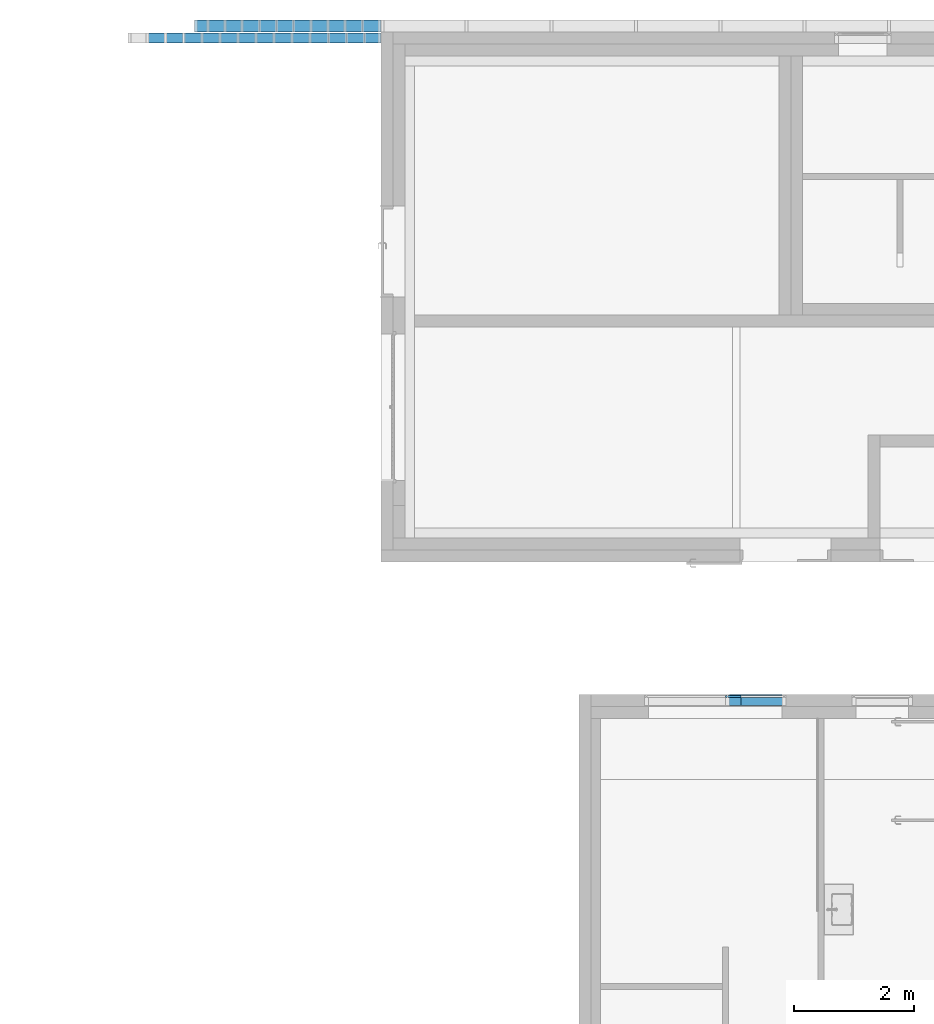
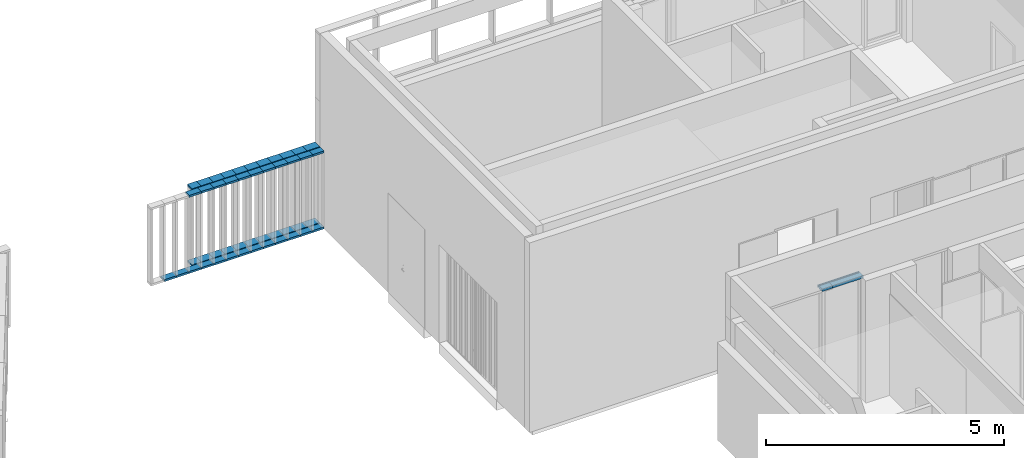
# One storey, part 37 of 240: 48 members, 3 elements without a shape of their own.
"""IFC2X3 building model written with IfcOpenShell, lengths in centimetres."""

from ifc_helpers import new_model, entity, si_unit, converted_unit, derived_unit, direction, frame, origin, origin_2d_with_axis, place, context, subcontext, project, spatial, polyline, rectangle, outline, extrude, source, transform, mapped, material, type_object, type_shapes, element, aggregate, save


model = new_model("IFC2X3")

# Units and contexts
model_context = context("Model", 3, precision=0.001, world=origin(), true_north=direction((6.12303176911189e-17, 1.0)))
body_context = subcontext(model_context, "Body", "Model", "MODEL_VIEW")
ifc_project = project(units=[si_unit("LENGTHUNIT", "METRE", prefix="CENTI"), si_unit("AREAUNIT", "SQUARE_METRE"), si_unit("VOLUMEUNIT", "CUBIC_METRE"), converted_unit("PLANEANGLEUNIT", "DEGREE", entity("IfcRatioMeasure", 0.0174532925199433), si_unit("PLANEANGLEUNIT", "RADIAN"), dimensions=[0, 0, 0, 0, 0, 0, 0]), si_unit("MASSUNIT", "GRAM", prefix="KILO"), derived_unit("MASSDENSITYUNIT", [(si_unit("MASSUNIT", "GRAM", prefix="KILO"), 1), (si_unit("LENGTHUNIT", "METRE"), -3)]), si_unit("TIMEUNIT", "SECOND"), si_unit("FREQUENCYUNIT", "HERTZ"), si_unit("THERMODYNAMICTEMPERATUREUNIT", "DEGREE_CELSIUS"), derived_unit("THERMALTRANSMITTANCEUNIT", [(si_unit("MASSUNIT", "GRAM", prefix="KILO"), 1), (si_unit("THERMODYNAMICTEMPERATUREUNIT", "KELVIN"), -1), (si_unit("TIMEUNIT", "SECOND"), -3)]), derived_unit("VOLUMETRICFLOWRATEUNIT", [(si_unit("LENGTHUNIT", "METRE"), 3), (si_unit("TIMEUNIT", "SECOND"), -1)]), si_unit("ELECTRICCURRENTUNIT", "AMPERE"), si_unit("ELECTRICVOLTAGEUNIT", "VOLT"), si_unit("POWERUNIT", "WATT"), si_unit("FORCEUNIT", "NEWTON", prefix="KILO"), si_unit("ILLUMINANCEUNIT", "LUX"), si_unit("LUMINOUSFLUXUNIT", "LUMEN"), si_unit("LUMINOUSINTENSITYUNIT", "CANDELA"), derived_unit("USERDEFINED", [(si_unit("MASSUNIT", "GRAM", prefix="KILO"), -1), (si_unit("LENGTHUNIT", "METRE"), -2), (si_unit("TIMEUNIT", "SECOND"), 3), (si_unit("LUMINOUSFLUXUNIT", "LUMEN"), 1)]), derived_unit("LINEARVELOCITYUNIT", [(si_unit("LENGTHUNIT", "METRE"), 1), (si_unit("TIMEUNIT", "SECOND"), -1)]), si_unit("PRESSUREUNIT", "PASCAL"), derived_unit("USERDEFINED", [(si_unit("LENGTHUNIT", "METRE"), -2), (si_unit("MASSUNIT", "GRAM", prefix="KILO"), 1), (si_unit("TIMEUNIT", "SECOND"), -2)])], contexts=[model_context])

# Site, building, storey
site_placement = place(None, frame((-2781.94577612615, 7442.24238424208, 0.0)))
site = spatial("IfcSite", under=ifc_project, at=site_placement, Name="Default", CompositionType="ELEMENT")
building_placement = place(site_placement, origin())
building = spatial("IfcBuilding", under=site, at=building_placement, CompositionType="ELEMENT")
storey_placement = place(building_placement, origin())
storey = spatial("IfcBuildingStorey", under=building, at=storey_placement, Name="N00 - COO", CompositionType="ELEMENT", Elevation=0.0)

# Curtain wall, members
curtain_wall_type_1 = type_object("IfcCurtainWallType", Name="Mur-SR", PredefinedType="NOTDEFINED")
curtain_wall_1_placement = place(storey_placement, origin())
curtain_wall_1 = element("IfcCurtainWall", 1, at=curtain_wall_1_placement, inside=storey, type_object=curtain_wall_type_1, Name="Mur-SR", ObjectType="Mur-SR")
ifc_material = material(Name="Aluminium")
member_type_1 = type_object("IfcMemberType", Name="Epine nord (200x50 mm)", PredefinedType="MEMBER")
shared_shape_1 = source(origin(), body_context, "Body", "SweptSolid", [
    extrude(rectangle(XDim=20.0, YDim=5.0, at=origin_2d_with_axis()), frame((-2.5, 0.0, -31.0), z_axis=(0.0, 0.0, 1.0), x_axis=(0.0, -1.0, 0.0)), (0.0, 0.0, 1.0), 31.0000000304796),
])
type_shapes(member_type_1, [shared_shape_1])
member_1_placement = place(storey_placement, frame((-11261.6616968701, 40.0, 200.0), z_axis=(-1.0, 0.0, 0.0), x_axis=(0.0, 0.0, 1.0)))
member_1 = element("IfcMember", 2, at=member_1_placement, type_object=member_type_1, material=ifc_material, Name="Meneau rectangulaire:Epine nord (200x50 mm)", ObjectType="Meneau rectangulaire:Epine nord (200x50 mm)", context=body_context, shape_type="MappedRepresentation", body=[
    mapped(shared_shape_1, transform((0.0, 0.0, 0.0), scale=1.0)),
])
member_type_2 = type_object("IfcMemberType", Name="Epine nord (200x50 mm)", PredefinedType="MEMBER")
shared_shape_2 = source(origin(), body_context, "Body", "SweptSolid", [
    extrude(rectangle(XDim=20.0, YDim=5.0, at=origin_2d_with_axis()), frame((-2.5, 0.0, -28.5000000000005), z_axis=(0.0, 0.0, 1.0), x_axis=(0.0, -1.0, 0.0)), (0.0, 0.0, 1.0), 28.5000000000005),
])
type_shapes(member_type_2, [shared_shape_2])
member_2_placement = place(storey_placement, frame((-11290.1616968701, 40.0, 200.0), z_axis=(-1.0, 0.0, 0.0), x_axis=(0.0, 0.0, 1.0)))
member_2 = element("IfcMember", 3, at=member_2_placement, type_object=member_type_2, material=ifc_material, Name="Meneau rectangulaire:Epine nord (200x50 mm)", ObjectType="Meneau rectangulaire:Epine nord (200x50 mm)", context=body_context, shape_type="MappedRepresentation", body=[
    mapped(shared_shape_2, transform((0.0, 0.0, 0.0), scale=1.0)),
])
member_3_placement = place(storey_placement, frame((-11318.6616968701, 40.0, 200.0), z_axis=(-1.0, 0.0, 0.0), x_axis=(0.0, 0.0, 1.0)))
member_3 = element("IfcMember", 4, at=member_3_placement, type_object=member_type_2, material=ifc_material, Name="Meneau rectangulaire:Epine nord (200x50 mm)", ObjectType="Meneau rectangulaire:Epine nord (200x50 mm)", context=body_context, shape_type="MappedRepresentation", body=[
    mapped(shared_shape_2, transform((0.0, 0.0, 0.0), scale=1.0)),
])
member_4_placement = place(storey_placement, frame((-11347.1616968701, 40.0, 200.0), z_axis=(-1.0, 0.0, 0.0), x_axis=(0.0, 0.0, 1.0)))
member_4 = element("IfcMember", 5, at=member_4_placement, type_object=member_type_2, material=ifc_material, Name="Meneau rectangulaire:Epine nord (200x50 mm)", ObjectType="Meneau rectangulaire:Epine nord (200x50 mm)", context=body_context, shape_type="MappedRepresentation", body=[
    mapped(shared_shape_2, transform((0.0, 0.0, 0.0), scale=1.0)),
])
member_5_placement = place(storey_placement, frame((-11375.6616968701, 40.0, 200.0), z_axis=(-1.0, 0.0, 0.0), x_axis=(0.0, 0.0, 1.0)))
member_5 = element("IfcMember", 6, at=member_5_placement, type_object=member_type_2, material=ifc_material, Name="Meneau rectangulaire:Epine nord (200x50 mm)", ObjectType="Meneau rectangulaire:Epine nord (200x50 mm)", context=body_context, shape_type="MappedRepresentation", body=[
    mapped(shared_shape_2, transform((0.0, 0.0, 0.0), scale=1.0)),
])
member_6_placement = place(storey_placement, frame((-11404.1616968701, 40.0, 200.0), z_axis=(-1.0, 0.0, 0.0), x_axis=(0.0, 0.0, 1.0)))
member_6 = element("IfcMember", 7, at=member_6_placement, type_object=member_type_2, material=ifc_material, Name="Meneau rectangulaire:Epine nord (200x50 mm)", ObjectType="Meneau rectangulaire:Epine nord (200x50 mm)", context=body_context, shape_type="MappedRepresentation", body=[
    mapped(shared_shape_2, transform((0.0, 0.0, 0.0), scale=1.0)),
])
member_7_placement = place(storey_placement, frame((-11432.6616968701, 40.0, 200.0), z_axis=(-1.0, 0.0, 0.0), x_axis=(0.0, 0.0, 1.0)))
member_7 = element("IfcMember", 8, at=member_7_placement, type_object=member_type_2, material=ifc_material, Name="Meneau rectangulaire:Epine nord (200x50 mm)", ObjectType="Meneau rectangulaire:Epine nord (200x50 mm)", context=body_context, shape_type="MappedRepresentation", body=[
    mapped(shared_shape_2, transform((0.0, 0.0, 0.0), scale=1.0)),
])
member_8_placement = place(storey_placement, frame((-11461.1616968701, 40.0, 200.0), z_axis=(-1.0, 0.0, 0.0), x_axis=(0.0, 0.0, 1.0)))
member_8 = element("IfcMember", 9, at=member_8_placement, type_object=member_type_2, material=ifc_material, Name="Meneau rectangulaire:Epine nord (200x50 mm)", ObjectType="Meneau rectangulaire:Epine nord (200x50 mm)", context=body_context, shape_type="MappedRepresentation", body=[
    mapped(shared_shape_2, transform((0.0, 0.0, 0.0), scale=1.0)),
])
member_9_placement = place(storey_placement, frame((-11489.6616968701, 40.0, 200.0), z_axis=(-1.0, 0.0, 0.0), x_axis=(0.0, 0.0, 1.0)))
member_9 = element("IfcMember", 10, at=member_9_placement, type_object=member_type_2, material=ifc_material, Name="Meneau rectangulaire:Epine nord (200x50 mm)", ObjectType="Meneau rectangulaire:Epine nord (200x50 mm)", context=body_context, shape_type="MappedRepresentation", body=[
    mapped(shared_shape_2, transform((0.0, 0.0, 0.0), scale=1.0)),
])
member_10_placement = place(storey_placement, frame((-11518.1616968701, 40.0, 200.0), z_axis=(-1.0, 0.0, 0.0), x_axis=(0.0, 0.0, 1.0)))
member_10 = element("IfcMember", 11, at=member_10_placement, type_object=member_type_2, material=ifc_material, Name="Meneau rectangulaire:Epine nord (200x50 mm)", ObjectType="Meneau rectangulaire:Epine nord (200x50 mm)", context=body_context, shape_type="MappedRepresentation", body=[
    mapped(shared_shape_2, transform((0.0, 0.0, 0.0), scale=1.0)),
])
member_type_3 = type_object("IfcMemberType", Name="Epine nord (200x50 mm)", PredefinedType="MEMBER")
shared_shape_3 = source(origin(), body_context, "Body", "SweptSolid", [
    extrude(rectangle(XDim=20.0, YDim=5.0, at=origin_2d_with_axis()), frame((-2.5, 0.0, -31.0), z_axis=(0.0, 0.0, 1.0), x_axis=(0.0, -1.0, 0.0)), (0.0, 0.0, 1.0), 31.0000000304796),
])
type_shapes(member_type_3, [shared_shape_3])
member_11_placement = place(storey_placement, frame((-11230.6616968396, 40.0, 0.0), z_axis=(1.0, 0.0, 0.0), x_axis=(0.0, 0.0, -1.0)))
member_11 = element("IfcMember", 12, at=member_11_placement, type_object=member_type_3, material=ifc_material, Name="Meneau rectangulaire:Epine nord (200x50 mm)", ObjectType="Meneau rectangulaire:Epine nord (200x50 mm)", context=body_context, shape_type="MappedRepresentation", body=[
    mapped(shared_shape_3, transform((0.0, 0.0, 0.0), scale=1.0)),
])
member_type_4 = type_object("IfcMemberType", Name="Epine nord (200x50 mm)", PredefinedType="MEMBER")
shared_shape_4 = source(origin(), body_context, "Body", "SweptSolid", [
    extrude(rectangle(XDim=20.0, YDim=5.0, at=origin_2d_with_axis()), frame((-2.5, 0.0, -28.5000000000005), z_axis=(0.0, 0.0, 1.0), x_axis=(0.0, -1.0, 0.0)), (0.0, 0.0, 1.0), 28.5000000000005),
])
type_shapes(member_type_4, [shared_shape_4])
member_12_placement = place(storey_placement, frame((-11261.6616968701, 40.0, 0.0), z_axis=(1.0, 0.0, 0.0), x_axis=(0.0, 0.0, -1.0)))
member_12 = element("IfcMember", 13, at=member_12_placement, type_object=member_type_4, material=ifc_material, Name="Meneau rectangulaire:Epine nord (200x50 mm)", ObjectType="Meneau rectangulaire:Epine nord (200x50 mm)", context=body_context, shape_type="MappedRepresentation", body=[
    mapped(shared_shape_4, transform((0.0, 0.0, 0.0), scale=1.0)),
])
member_13_placement = place(storey_placement, frame((-11290.1616968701, 40.0, 0.0), z_axis=(1.0, 0.0, 0.0), x_axis=(0.0, 0.0, -1.0)))
member_13 = element("IfcMember", 14, at=member_13_placement, type_object=member_type_4, material=ifc_material, Name="Meneau rectangulaire:Epine nord (200x50 mm)", ObjectType="Meneau rectangulaire:Epine nord (200x50 mm)", context=body_context, shape_type="MappedRepresentation", body=[
    mapped(shared_shape_4, transform((0.0, 0.0, 0.0), scale=1.0)),
])
member_14_placement = place(storey_placement, frame((-11318.6616968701, 40.0, 0.0), z_axis=(1.0, 0.0, 0.0), x_axis=(0.0, 0.0, -1.0)))
member_14 = element("IfcMember", 15, at=member_14_placement, type_object=member_type_4, material=ifc_material, Name="Meneau rectangulaire:Epine nord (200x50 mm)", ObjectType="Meneau rectangulaire:Epine nord (200x50 mm)", context=body_context, shape_type="MappedRepresentation", body=[
    mapped(shared_shape_4, transform((0.0, 0.0, 0.0), scale=1.0)),
])
member_15_placement = place(storey_placement, frame((-11347.1616968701, 40.0, 0.0), z_axis=(1.0, 0.0, 0.0), x_axis=(0.0, 0.0, -1.0)))
member_15 = element("IfcMember", 16, at=member_15_placement, type_object=member_type_4, material=ifc_material, Name="Meneau rectangulaire:Epine nord (200x50 mm)", ObjectType="Meneau rectangulaire:Epine nord (200x50 mm)", context=body_context, shape_type="MappedRepresentation", body=[
    mapped(shared_shape_4, transform((0.0, 0.0, 0.0), scale=1.0)),
])
member_16_placement = place(storey_placement, frame((-11375.6616968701, 40.0, 0.0), z_axis=(1.0, 0.0, 0.0), x_axis=(0.0, 0.0, -1.0)))
member_16 = element("IfcMember", 17, at=member_16_placement, type_object=member_type_4, material=ifc_material, Name="Meneau rectangulaire:Epine nord (200x50 mm)", ObjectType="Meneau rectangulaire:Epine nord (200x50 mm)", context=body_context, shape_type="MappedRepresentation", body=[
    mapped(shared_shape_4, transform((0.0, 0.0, 0.0), scale=1.0)),
])
member_17_placement = place(storey_placement, frame((-11404.1616968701, 40.0, 0.0), z_axis=(1.0, 0.0, 0.0), x_axis=(0.0, 0.0, -1.0)))
member_17 = element("IfcMember", 18, at=member_17_placement, type_object=member_type_4, material=ifc_material, Name="Meneau rectangulaire:Epine nord (200x50 mm)", ObjectType="Meneau rectangulaire:Epine nord (200x50 mm)", context=body_context, shape_type="MappedRepresentation", body=[
    mapped(shared_shape_4, transform((0.0, 0.0, 0.0), scale=1.0)),
])
member_18_placement = place(storey_placement, frame((-11432.6616968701, 40.0, 0.0), z_axis=(1.0, 0.0, 0.0), x_axis=(0.0, 0.0, -1.0)))
member_18 = element("IfcMember", 19, at=member_18_placement, type_object=member_type_4, material=ifc_material, Name="Meneau rectangulaire:Epine nord (200x50 mm)", ObjectType="Meneau rectangulaire:Epine nord (200x50 mm)", context=body_context, shape_type="MappedRepresentation", body=[
    mapped(shared_shape_4, transform((0.0, 0.0, 0.0), scale=1.0)),
])
member_19_placement = place(storey_placement, frame((-11461.1616968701, 40.0, 0.0), z_axis=(1.0, 0.0, 0.0), x_axis=(0.0, 0.0, -1.0)))
member_19 = element("IfcMember", 20, at=member_19_placement, type_object=member_type_4, material=ifc_material, Name="Meneau rectangulaire:Epine nord (200x50 mm)", ObjectType="Meneau rectangulaire:Epine nord (200x50 mm)", context=body_context, shape_type="MappedRepresentation", body=[
    mapped(shared_shape_4, transform((0.0, 0.0, 0.0), scale=1.0)),
])
member_20_placement = place(storey_placement, frame((-11489.6616968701, 40.0, 0.0), z_axis=(1.0, 0.0, 0.0), x_axis=(0.0, 0.0, -1.0)))
member_20 = element("IfcMember", 21, at=member_20_placement, type_object=member_type_4, material=ifc_material, Name="Meneau rectangulaire:Epine nord (200x50 mm)", ObjectType="Meneau rectangulaire:Epine nord (200x50 mm)", context=body_context, shape_type="MappedRepresentation", body=[
    mapped(shared_shape_4, transform((0.0, 0.0, 0.0), scale=1.0)),
])
member_type_5 = type_object("IfcMemberType", Name="Epine nord (200x50 mm)", PredefinedType="MEMBER")
shared_shape_5 = source(origin(), body_context, "Body", "SweptSolid", [
    extrude(rectangle(XDim=20.0, YDim=5.0, at=origin_2d_with_axis()), frame((-2.5, 0.0, -22.5132562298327), z_axis=(0.0, 0.0, 1.0), x_axis=(0.0, -1.0, 0.0)), (0.0, 0.0, 1.0), 22.5132562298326),
])
type_shapes(member_type_5, [shared_shape_5])
member_21_placement = place(storey_placement, frame((-11518.1616968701, 40.0, 0.0), z_axis=(1.0, 0.0, 0.0), x_axis=(0.0, 0.0, -1.0)))
member_21 = element("IfcMember", 22, at=member_21_placement, type_object=member_type_5, material=ifc_material, Name="Meneau rectangulaire:Epine nord (200x50 mm)", ObjectType="Meneau rectangulaire:Epine nord (200x50 mm)", context=body_context, shape_type="MappedRepresentation", body=[
    mapped(shared_shape_5, transform((0.0, 0.0, 0.0), scale=1.0)),
])
member_type_6 = type_object("IfcMemberType", Name="Epine nord (200x50 mm)", PredefinedType="MEMBER")
shared_shape_6 = source(origin(), body_context, "Body", "SweptSolid", [
    extrude(rectangle(XDim=20.0, YDim=5.0, at=origin_2d_with_axis()), frame((-2.5, 0.0, -22.5132562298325), z_axis=(0.0, 0.0, 1.0), x_axis=(0.0, -1.0, 0.0)), (0.0, 0.0, 1.0), 22.5132562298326),
])
type_shapes(member_type_6, [shared_shape_6])
member_22_placement = place(storey_placement, frame((-11540.6749531, 40.0, 200.0), z_axis=(-1.0, 0.0, 0.0), x_axis=(0.0, 0.0, 1.0)))
member_22 = element("IfcMember", 23, at=member_22_placement, type_object=member_type_6, material=ifc_material, Name="Meneau rectangulaire:Epine nord (200x50 mm)", ObjectType="Meneau rectangulaire:Epine nord (200x50 mm)", context=body_context, shape_type="MappedRepresentation", body=[
    mapped(shared_shape_6, transform((0.0, 0.0, 0.0), scale=1.0)),
])
aggregate(curtain_wall_1, [member_1, member_2, member_3, member_4, member_5, member_6, member_7, member_8, member_9, member_10, member_11, member_12, member_13, member_14, member_15, member_16, member_17, member_18, member_19, member_20, member_21, member_22])

curtain_wall_type_2 = type_object("IfcCurtainWallType", Name="Mur-rideau:07 - mur rideau trame 160cm", PredefinedType="NOTDEFINED")
curtain_wall_2_placement = place(building_placement, origin())
curtain_wall_2 = element("IfcCurtainWall", 24, at=curtain_wall_2_placement, inside=storey, type_object=curtain_wall_type_2, Name="Mur-rideau:07 - mur rideau trame 160cm", ObjectType="Mur-rideau:07 - mur rideau trame 160cm")
member_type_7 = type_object("IfcMemberType", Name="150 x 25mm Détails", PredefinedType="MEMBER")
shared_shape_7 = source(origin(), body_context, "Body", "SweptSolid", [
    extrude(outline(polyline([(-13.3333333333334, -3.24999999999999), (0.166666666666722, -3.24999999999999), (0.166666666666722, -0.868749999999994), (3.66666666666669, -0.868749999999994), (3.66666666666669, -3.25), (5.66666666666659, -3.25), (5.66666666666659, 3.24999999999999), (3.66666666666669, 3.24999999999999), (3.66666666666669, 0.86874999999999), (0.166666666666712, 0.86874999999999), (0.166666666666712, 3.25000000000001), (-13.3333333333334, 3.25000000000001), (-13.3333333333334, -3.24999999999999)])), frame((-3.24999999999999, 1.96666666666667, -25.1187500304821), z_axis=(0.0, 0.0, 1.0), x_axis=(0.0, -1.0, 0.0)), (0.0, 0.0, 1.0), 25.1187500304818),
])
type_shapes(member_type_7, [shared_shape_7])
member_23_placement = place(building_placement, frame((-10657.9998776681, -1073.69999990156, 306.0), z_axis=(-1.0, 0.0, 0.0), x_axis=(0.0, 0.0, -1.0)))
member_23 = element("IfcMember", 25, at=member_23_placement, type_object=member_type_7, material=ifc_material, Name="Meneau rectangulaire:150 x 25mm Détails", ObjectType="Meneau rectangulaire:150 x 25mm Détails", context=body_context, shape_type="MappedRepresentation", body=[
    mapped(shared_shape_7, transform((0.0, 0.0, 0.0), scale=1.0)),
])
member_type_8 = type_object("IfcMemberType", Name="150 x 25mm Détails", PredefinedType="MEMBER")
shared_shape_8 = source(origin(), body_context, "Body", "SweptSolid", [
    extrude(outline(polyline([(-13.3333333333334, -3.24999999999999), (0.166666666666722, -3.24999999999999), (0.166666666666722, -0.868749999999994), (3.66666666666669, -0.868749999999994), (3.66666666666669, -3.25), (5.66666666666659, -3.25), (5.66666666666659, 3.24999999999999), (3.66666666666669, 3.24999999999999), (3.66666666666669, 0.86874999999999), (0.166666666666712, 0.86874999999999), (0.166666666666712, 3.25000000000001), (-13.3333333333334, 3.25000000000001), (-13.3333333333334, -3.24999999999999)])), frame((-3.24999999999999, 1.96666666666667, -74.8812499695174), z_axis=(0.0, 0.0, 1.0), x_axis=(0.0, -1.0, 0.0)), (0.0, 0.0, 1.0), 74.8812499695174),
])
type_shapes(member_type_8, [shared_shape_8])
member_24_placement = place(building_placement, frame((-10632.8811276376, -1073.69999990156, 306.0), z_axis=(-1.0, 0.0, 0.0), x_axis=(0.0, 0.0, -1.0)))
member_24 = element("IfcMember", 26, at=member_24_placement, type_object=member_type_8, material=ifc_material, Name="Meneau rectangulaire:150 x 25mm Détails", ObjectType="Meneau rectangulaire:150 x 25mm Détails", context=body_context, shape_type="MappedRepresentation", body=[
    mapped(shared_shape_8, transform((0.0, 0.0, 0.0), scale=1.0)),
])
aggregate(curtain_wall_2, [member_23, member_24])

curtain_wall_type_3 = type_object("IfcCurtainWallType", Name="Mur-SR", PredefinedType="NOTDEFINED")
curtain_wall_3_placement = place(storey_placement, origin())
curtain_wall_3 = element("IfcCurtainWall", 27, at=curtain_wall_3_placement, inside=storey, type_object=curtain_wall_type_3, Name="Mur-SR", ObjectType="Mur-SR")
member_type_9 = type_object("IfcMemberType", Name="Epine nord (160x50 mm)", PredefinedType="MEMBER")
shared_shape_9 = source(origin(), body_context, "Body", "SweptSolid", [
    extrude(rectangle(XDim=16.0, YDim=5.0, at=origin_2d_with_axis()), frame((-2.5, 0.0, -30.0), z_axis=(0.0, 0.0, 1.0), x_axis=(0.0, -1.0, 0.0)), (0.0, 0.0, 1.0), 30.0000000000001),
])
type_shapes(member_type_9, [shared_shape_9])
member_25_placement = place(storey_placement, frame((-11528.1616968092, 20.0, 200.0), z_axis=(1.0, 0.0, 0.0), x_axis=(0.0, 0.0, 1.0)))
member_25 = element("IfcMember", 28, at=member_25_placement, type_object=member_type_9, material=ifc_material, Name="Meneau rectangulaire:Epine nord (160x50 mm)", ObjectType="Meneau rectangulaire:Epine nord (160x50 mm)", context=body_context, shape_type="MappedRepresentation", body=[
    mapped(shared_shape_9, transform((0.0, 0.0, 0.0), scale=1.0)),
])
member_26_placement = place(storey_placement, frame((-11498.1616968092, 20.0, 200.0), z_axis=(1.0, 0.0, 0.0), x_axis=(0.0, 0.0, 1.0)))
member_26 = element("IfcMember", 29, at=member_26_placement, type_object=member_type_9, material=ifc_material, Name="Meneau rectangulaire:Epine nord (160x50 mm)", ObjectType="Meneau rectangulaire:Epine nord (160x50 mm)", context=body_context, shape_type="MappedRepresentation", body=[
    mapped(shared_shape_9, transform((0.0, 0.0, 0.0), scale=1.0)),
])
member_27_placement = place(storey_placement, frame((-11468.1616968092, 20.0, 200.0), z_axis=(1.0, 0.0, 0.0), x_axis=(0.0, 0.0, 1.0)))
member_27 = element("IfcMember", 30, at=member_27_placement, type_object=member_type_9, material=ifc_material, Name="Meneau rectangulaire:Epine nord (160x50 mm)", ObjectType="Meneau rectangulaire:Epine nord (160x50 mm)", context=body_context, shape_type="MappedRepresentation", body=[
    mapped(shared_shape_9, transform((0.0, 0.0, 0.0), scale=1.0)),
])
member_28_placement = place(storey_placement, frame((-11438.1616968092, 20.0, 200.0), z_axis=(1.0, 0.0, 0.0), x_axis=(0.0, 0.0, 1.0)))
member_28 = element("IfcMember", 31, at=member_28_placement, type_object=member_type_9, material=ifc_material, Name="Meneau rectangulaire:Epine nord (160x50 mm)", ObjectType="Meneau rectangulaire:Epine nord (160x50 mm)", context=body_context, shape_type="MappedRepresentation", body=[
    mapped(shared_shape_9, transform((0.0, 0.0, 0.0), scale=1.0)),
])
member_29_placement = place(storey_placement, frame((-11408.1616968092, 20.0, 200.0), z_axis=(1.0, 0.0, 0.0), x_axis=(0.0, 0.0, 1.0)))
member_29 = element("IfcMember", 32, at=member_29_placement, type_object=member_type_9, material=ifc_material, Name="Meneau rectangulaire:Epine nord (160x50 mm)", ObjectType="Meneau rectangulaire:Epine nord (160x50 mm)", context=body_context, shape_type="MappedRepresentation", body=[
    mapped(shared_shape_9, transform((0.0, 0.0, 0.0), scale=1.0)),
])
member_30_placement = place(storey_placement, frame((-11378.1616968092, 20.0, 200.0), z_axis=(1.0, 0.0, 0.0), x_axis=(0.0, 0.0, 1.0)))
member_30 = element("IfcMember", 33, at=member_30_placement, type_object=member_type_9, material=ifc_material, Name="Meneau rectangulaire:Epine nord (160x50 mm)", ObjectType="Meneau rectangulaire:Epine nord (160x50 mm)", context=body_context, shape_type="MappedRepresentation", body=[
    mapped(shared_shape_9, transform((0.0, 0.0, 0.0), scale=1.0)),
])
member_31_placement = place(storey_placement, frame((-11348.1616968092, 20.0, 200.0), z_axis=(1.0, 0.0, 0.0), x_axis=(0.0, 0.0, 1.0)))
member_31 = element("IfcMember", 34, at=member_31_placement, type_object=member_type_9, material=ifc_material, Name="Meneau rectangulaire:Epine nord (160x50 mm)", ObjectType="Meneau rectangulaire:Epine nord (160x50 mm)", context=body_context, shape_type="MappedRepresentation", body=[
    mapped(shared_shape_9, transform((0.0, 0.0, 0.0), scale=1.0)),
])
member_32_placement = place(storey_placement, frame((-11318.1616968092, 20.0, 200.0), z_axis=(1.0, 0.0, 0.0), x_axis=(0.0, 0.0, 1.0)))
member_32 = element("IfcMember", 35, at=member_32_placement, type_object=member_type_9, material=ifc_material, Name="Meneau rectangulaire:Epine nord (160x50 mm)", ObjectType="Meneau rectangulaire:Epine nord (160x50 mm)", context=body_context, shape_type="MappedRepresentation", body=[
    mapped(shared_shape_9, transform((0.0, 0.0, 0.0), scale=1.0)),
])
member_33_placement = place(storey_placement, frame((-11288.1616968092, 20.0, 200.0), z_axis=(1.0, 0.0, 0.0), x_axis=(0.0, 0.0, 1.0)))
member_33 = element("IfcMember", 36, at=member_33_placement, type_object=member_type_9, material=ifc_material, Name="Meneau rectangulaire:Epine nord (160x50 mm)", ObjectType="Meneau rectangulaire:Epine nord (160x50 mm)", context=body_context, shape_type="MappedRepresentation", body=[
    mapped(shared_shape_9, transform((0.0, 0.0, 0.0), scale=1.0)),
])
member_34_placement = place(storey_placement, frame((-11258.1616968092, 20.0, 200.0), z_axis=(1.0, 0.0, 0.0), x_axis=(0.0, 0.0, 1.0)))
member_34 = element("IfcMember", 37, at=member_34_placement, type_object=member_type_9, material=ifc_material, Name="Meneau rectangulaire:Epine nord (160x50 mm)", ObjectType="Meneau rectangulaire:Epine nord (160x50 mm)", context=body_context, shape_type="MappedRepresentation", body=[
    mapped(shared_shape_9, transform((0.0, 0.0, 0.0), scale=1.0)),
])
member_type_10 = type_object("IfcMemberType", Name="Epine nord (160x50 mm)", PredefinedType="MEMBER")
shared_shape_10 = source(origin(), body_context, "Body", "SweptSolid", [
    extrude(rectangle(XDim=16.0, YDim=5.0, at=origin_2d_with_axis()), frame((-2.5, 0.0, -30.0), z_axis=(0.0, 0.0, 1.0), x_axis=(0.0, -1.0, 0.0)), (0.0, 0.0, 1.0), 30.0000000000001),
])
type_shapes(member_type_10, [shared_shape_10])
member_35_placement = place(storey_placement, frame((-11618.1616968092, 20.0, 0.0), z_axis=(-1.0, 0.0, 0.0), x_axis=(0.0, 0.0, -1.0)))
member_35 = element("IfcMember", 38, at=member_35_placement, type_object=member_type_10, material=ifc_material, Name="Meneau rectangulaire:Epine nord (160x50 mm)", ObjectType="Meneau rectangulaire:Epine nord (160x50 mm)", context=body_context, shape_type="MappedRepresentation", body=[
    mapped(shared_shape_10, transform((0.0, 0.0, 0.0), scale=1.0)),
])
member_36_placement = place(storey_placement, frame((-11588.1616968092, 20.0, 0.0), z_axis=(-1.0, 0.0, 0.0), x_axis=(0.0, 0.0, -1.0)))
member_36 = element("IfcMember", 39, at=member_36_placement, type_object=member_type_10, material=ifc_material, Name="Meneau rectangulaire:Epine nord (160x50 mm)", ObjectType="Meneau rectangulaire:Epine nord (160x50 mm)", context=body_context, shape_type="MappedRepresentation", body=[
    mapped(shared_shape_10, transform((0.0, 0.0, 0.0), scale=1.0)),
])
member_37_placement = place(storey_placement, frame((-11558.1616968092, 20.0, 0.0), z_axis=(-1.0, 0.0, 0.0), x_axis=(0.0, 0.0, -1.0)))
member_37 = element("IfcMember", 40, at=member_37_placement, type_object=member_type_10, material=ifc_material, Name="Meneau rectangulaire:Epine nord (160x50 mm)", ObjectType="Meneau rectangulaire:Epine nord (160x50 mm)", context=body_context, shape_type="MappedRepresentation", body=[
    mapped(shared_shape_10, transform((0.0, 0.0, 0.0), scale=1.0)),
])
member_38_placement = place(storey_placement, frame((-11528.1616968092, 20.0, 0.0), z_axis=(-1.0, 0.0, 0.0), x_axis=(0.0, 0.0, -1.0)))
member_38 = element("IfcMember", 41, at=member_38_placement, type_object=member_type_10, material=ifc_material, Name="Meneau rectangulaire:Epine nord (160x50 mm)", ObjectType="Meneau rectangulaire:Epine nord (160x50 mm)", context=body_context, shape_type="MappedRepresentation", body=[
    mapped(shared_shape_10, transform((0.0, 0.0, 0.0), scale=1.0)),
])
member_39_placement = place(storey_placement, frame((-11498.1616968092, 20.0, 0.0), z_axis=(-1.0, 0.0, 0.0), x_axis=(0.0, 0.0, -1.0)))
member_39 = element("IfcMember", 42, at=member_39_placement, type_object=member_type_10, material=ifc_material, Name="Meneau rectangulaire:Epine nord (160x50 mm)", ObjectType="Meneau rectangulaire:Epine nord (160x50 mm)", context=body_context, shape_type="MappedRepresentation", body=[
    mapped(shared_shape_10, transform((0.0, 0.0, 0.0), scale=1.0)),
])
member_40_placement = place(storey_placement, frame((-11468.1616968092, 20.0, 0.0), z_axis=(-1.0, 0.0, 0.0), x_axis=(0.0, 0.0, -1.0)))
member_40 = element("IfcMember", 43, at=member_40_placement, type_object=member_type_10, material=ifc_material, Name="Meneau rectangulaire:Epine nord (160x50 mm)", ObjectType="Meneau rectangulaire:Epine nord (160x50 mm)", context=body_context, shape_type="MappedRepresentation", body=[
    mapped(shared_shape_10, transform((0.0, 0.0, 0.0), scale=1.0)),
])
member_41_placement = place(storey_placement, frame((-11438.1616968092, 20.0, 0.0), z_axis=(-1.0, 0.0, 0.0), x_axis=(0.0, 0.0, -1.0)))
member_41 = element("IfcMember", 44, at=member_41_placement, type_object=member_type_10, material=ifc_material, Name="Meneau rectangulaire:Epine nord (160x50 mm)", ObjectType="Meneau rectangulaire:Epine nord (160x50 mm)", context=body_context, shape_type="MappedRepresentation", body=[
    mapped(shared_shape_10, transform((0.0, 0.0, 0.0), scale=1.0)),
])
member_42_placement = place(storey_placement, frame((-11408.1616968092, 20.0, 0.0), z_axis=(-1.0, 0.0, 0.0), x_axis=(0.0, 0.0, -1.0)))
member_42 = element("IfcMember", 45, at=member_42_placement, type_object=member_type_10, material=ifc_material, Name="Meneau rectangulaire:Epine nord (160x50 mm)", ObjectType="Meneau rectangulaire:Epine nord (160x50 mm)", context=body_context, shape_type="MappedRepresentation", body=[
    mapped(shared_shape_10, transform((0.0, 0.0, 0.0), scale=1.0)),
])
member_43_placement = place(storey_placement, frame((-11378.1616968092, 20.0, 0.0), z_axis=(-1.0, 0.0, 0.0), x_axis=(0.0, 0.0, -1.0)))
member_43 = element("IfcMember", 46, at=member_43_placement, type_object=member_type_10, material=ifc_material, Name="Meneau rectangulaire:Epine nord (160x50 mm)", ObjectType="Meneau rectangulaire:Epine nord (160x50 mm)", context=body_context, shape_type="MappedRepresentation", body=[
    mapped(shared_shape_10, transform((0.0, 0.0, 0.0), scale=1.0)),
])
member_44_placement = place(storey_placement, frame((-11348.1616968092, 20.0, 0.0), z_axis=(-1.0, 0.0, 0.0), x_axis=(0.0, 0.0, -1.0)))
member_44 = element("IfcMember", 47, at=member_44_placement, type_object=member_type_10, material=ifc_material, Name="Meneau rectangulaire:Epine nord (160x50 mm)", ObjectType="Meneau rectangulaire:Epine nord (160x50 mm)", context=body_context, shape_type="MappedRepresentation", body=[
    mapped(shared_shape_10, transform((0.0, 0.0, 0.0), scale=1.0)),
])
member_45_placement = place(storey_placement, frame((-11318.1616968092, 20.0, 0.0), z_axis=(-1.0, 0.0, 0.0), x_axis=(0.0, 0.0, -1.0)))
member_45 = element("IfcMember", 48, at=member_45_placement, type_object=member_type_10, material=ifc_material, Name="Meneau rectangulaire:Epine nord (160x50 mm)", ObjectType="Meneau rectangulaire:Epine nord (160x50 mm)", context=body_context, shape_type="MappedRepresentation", body=[
    mapped(shared_shape_10, transform((0.0, 0.0, 0.0), scale=1.0)),
])
member_46_placement = place(storey_placement, frame((-11288.1616968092, 20.0, 0.0), z_axis=(-1.0, 0.0, 0.0), x_axis=(0.0, 0.0, -1.0)))
member_46 = element("IfcMember", 49, at=member_46_placement, type_object=member_type_10, material=ifc_material, Name="Meneau rectangulaire:Epine nord (160x50 mm)", ObjectType="Meneau rectangulaire:Epine nord (160x50 mm)", context=body_context, shape_type="MappedRepresentation", body=[
    mapped(shared_shape_10, transform((0.0, 0.0, 0.0), scale=1.0)),
])
member_type_11 = type_object("IfcMemberType", Name="Epine nord (160x50 mm)", PredefinedType="MEMBER")
shared_shape_11 = source(origin(), body_context, "Body", "SweptSolid", [
    extrude(rectangle(XDim=16.0, YDim=5.0, at=origin_2d_with_axis()), frame((-2.5, 0.0, -27.4999999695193), z_axis=(0.0, 0.0, 1.0), x_axis=(0.0, -1.0, 0.0)), (0.0, 0.0, 1.0), 27.4999999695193),
])
type_shapes(member_type_11, [shared_shape_11])
member_47_placement = place(storey_placement, frame((-11230.6616968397, 20.0, 200.0), z_axis=(1.0, 0.0, 0.0), x_axis=(0.0, 0.0, 1.0)))
member_47 = element("IfcMember", 50, at=member_47_placement, type_object=member_type_11, material=ifc_material, Name="Meneau rectangulaire:Epine nord (160x50 mm)", ObjectType="Meneau rectangulaire:Epine nord (160x50 mm)", context=body_context, shape_type="MappedRepresentation", body=[
    mapped(shared_shape_11, transform((0.0, 0.0, 0.0), scale=1.0)),
])
member_type_12 = type_object("IfcMemberType", Name="Epine nord (160x50 mm)", PredefinedType="MEMBER")
shared_shape_12 = source(origin(), body_context, "Body", "SweptSolid", [
    extrude(rectangle(XDim=16.0, YDim=5.0, at=origin_2d_with_axis()), frame((-2.5, 0.0, -27.4999999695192), z_axis=(0.0, 0.0, 1.0), x_axis=(0.0, -1.0, 0.0)), (0.0, 0.0, 1.0), 27.4999999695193),
])
type_shapes(member_type_12, [shared_shape_12])
member_48_placement = place(storey_placement, frame((-11258.1616968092, 20.0, 0.0), z_axis=(-1.0, 0.0, 0.0), x_axis=(0.0, 0.0, -1.0)))
member_48 = element("IfcMember", 51, at=member_48_placement, type_object=member_type_12, material=ifc_material, Name="Meneau rectangulaire:Epine nord (160x50 mm)", ObjectType="Meneau rectangulaire:Epine nord (160x50 mm)", context=body_context, shape_type="MappedRepresentation", body=[
    mapped(shared_shape_12, transform((0.0, 0.0, 0.0), scale=1.0)),
])
aggregate(curtain_wall_3, [member_35, member_36, member_37, member_47, member_38, member_39, member_40, member_41, member_42, member_43, member_44, member_45, member_46, member_25, member_26, member_27, member_28, member_29, member_30, member_31, member_32, member_33, member_34, member_48])

save(model, "model.ifc")
